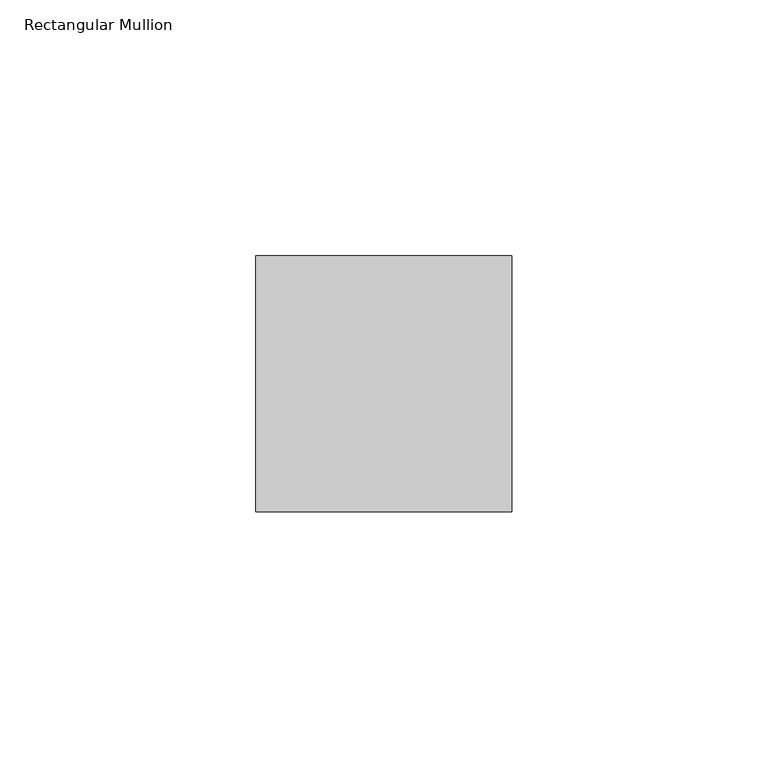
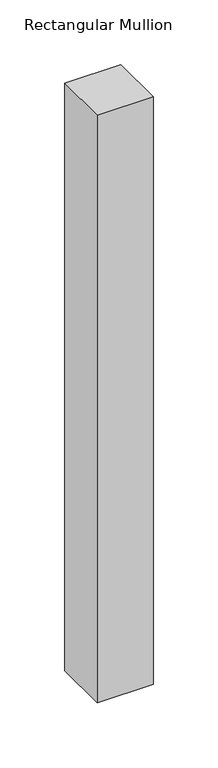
"""IFC4 building model written with IfcOpenShell, lengths in millimetres: member geometry, Rectangular Mullion : RSen_21_CWM_support profile 50x50 - left_gen_duco projects."""

from ifc_helpers import new_model, si_unit, frame, origin, place, context, project, spatial, polyline, outline, extrude, source, transform, mapped, element, save


def rectangular_mullion_d8201ae5(model_context):
    return source(origin(), model_context, "Body", "SweptSolid", [
        extrude(outline(polyline([(0.0, 1.0), (0.0, -49.0), (-50.0, -49.0), (-50.0, 1.0), (0.0, 1.0)])), frame((0.0, 0.0, -555.0), z_axis=(0.0, 0.0, 1.0), x_axis=(1.0, 0.0, 0.0)), (0.0, 0.0, 1.0), 555.0),
    ])


if __name__ == "__main__":
    model = new_model("IFC4")
    model_context = context("Model", 3, world=origin())
    ifc_project = project(units=[si_unit("LENGTHUNIT", "METRE", prefix="MILLI")], contexts=[model_context])
    site = spatial("IfcSite", under=ifc_project)
    building = spatial("IfcBuilding", under=site)
    placement = place(None, origin())
    rectangular_mullion_shape = rectangular_mullion_d8201ae5(model_context)
    element("IfcMember", 1, ObjectType="Rectangular Mullion : RSen_21_CWM_support profile 50x50 - left_gen_duco projects", at=placement, inside=building, context=model_context, shape_type="MappedRepresentation", body=[
        mapped(rectangular_mullion_shape, transform((0.0, 0.0, 0.0), x_axis=(1.0, 0.0, 0.0), y_axis=(0.0, 1.0, 0.0), z_axis=(0.0, 0.0, 1.0))),
    ])
    save(model, "model.ifc")
